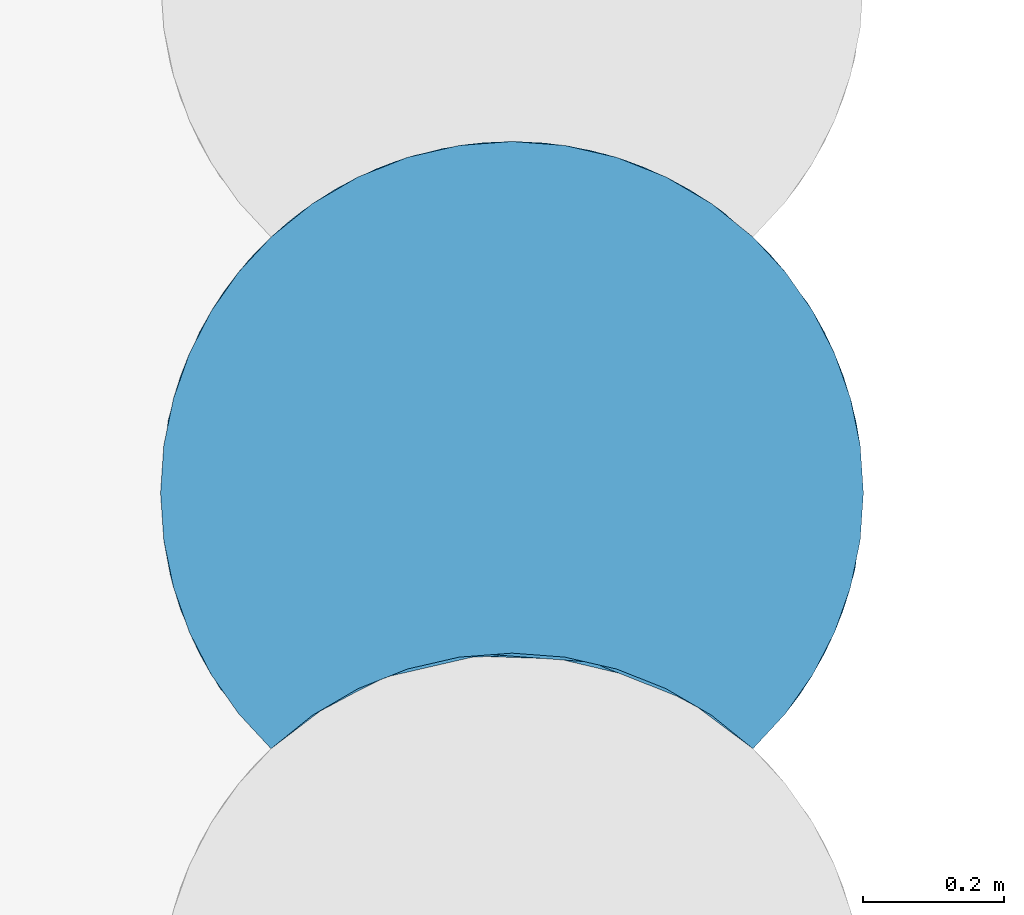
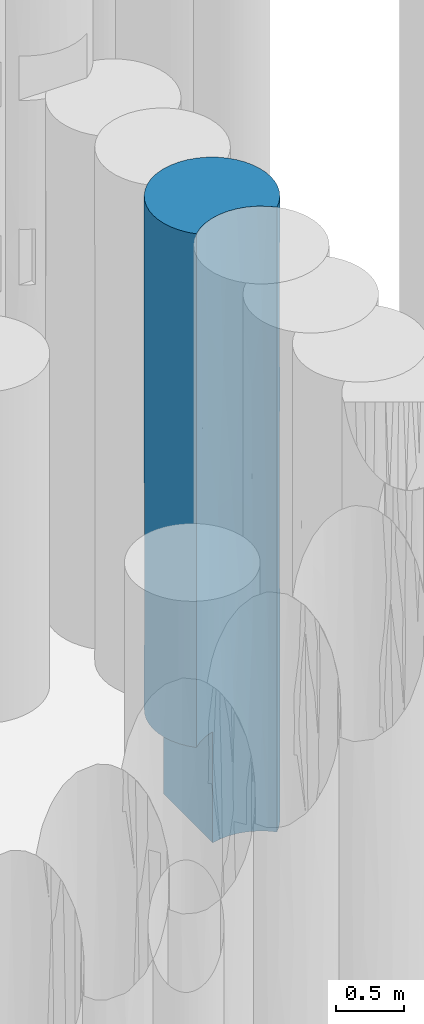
# One storey, part 65 of 104: 1 pile.
"""IFC2X3 building model written with IfcOpenShell, lengths in millimetres."""

from ifc_helpers import new_model, entity, si_unit, converted_unit, derived_unit, direction, frame, origin, place, context, subcontext, project, spatial, faceted_brep, source, transform, mapped, material, element, save


model = new_model("IFC2X3")

# Units and contexts
model_context = context("Model", 3, precision=0.01, world=origin(), true_north=direction((6.12303176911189e-17, 1.0)))
body_context = subcontext(model_context, "Body", "Model", "MODEL_VIEW")
ifc_project = project(units=[si_unit("LENGTHUNIT", "METRE", prefix="MILLI"), si_unit("AREAUNIT", "SQUARE_METRE", prefix="MILLI"), si_unit("VOLUMEUNIT", "CUBIC_METRE"), converted_unit("PLANEANGLEUNIT", "DEGREE", entity("IfcRatioMeasure", 0.0174532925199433), si_unit("PLANEANGLEUNIT", "RADIAN"), dimensions=[0, 0, 0, 0, 0, 0, 0]), si_unit("MASSUNIT", "GRAM", prefix="KILO"), derived_unit("MASSDENSITYUNIT", [(si_unit("MASSUNIT", "GRAM", prefix="KILO"), 1), (si_unit("LENGTHUNIT", "METRE"), -3)]), derived_unit("MOMENTOFINERTIAUNIT", [(si_unit("LENGTHUNIT", "METRE"), 4)]), si_unit("TIMEUNIT", "SECOND"), si_unit("FREQUENCYUNIT", "HERTZ"), si_unit("THERMODYNAMICTEMPERATUREUNIT", "DEGREE_CELSIUS"), derived_unit("THERMALTRANSMITTANCEUNIT", [(si_unit("MASSUNIT", "GRAM", prefix="KILO"), 1), (si_unit("THERMODYNAMICTEMPERATUREUNIT", "KELVIN"), -1), (si_unit("TIMEUNIT", "SECOND"), -3)]), derived_unit("VOLUMETRICFLOWRATEUNIT", [(si_unit("LENGTHUNIT", "METRE"), 3), (si_unit("TIMEUNIT", "SECOND"), -1)]), si_unit("ELECTRICCURRENTUNIT", "AMPERE"), si_unit("ELECTRICVOLTAGEUNIT", "VOLT"), si_unit("POWERUNIT", "WATT"), si_unit("FORCEUNIT", "NEWTON", prefix="KILO"), si_unit("ILLUMINANCEUNIT", "LUX"), si_unit("LUMINOUSFLUXUNIT", "LUMEN"), si_unit("LUMINOUSINTENSITYUNIT", "CANDELA"), derived_unit("USERDEFINED", [(si_unit("MASSUNIT", "GRAM", prefix="KILO"), -1), (si_unit("LENGTHUNIT", "METRE"), -2), (si_unit("TIMEUNIT", "SECOND"), 3), (si_unit("LUMINOUSFLUXUNIT", "LUMEN"), 1)]), derived_unit("LINEARVELOCITYUNIT", [(si_unit("LENGTHUNIT", "METRE"), 1), (si_unit("TIMEUNIT", "SECOND"), -1)]), si_unit("PRESSUREUNIT", "PASCAL"), derived_unit("USERDEFINED", [(si_unit("LENGTHUNIT", "METRE"), -2), (si_unit("MASSUNIT", "GRAM", prefix="KILO"), 1), (si_unit("TIMEUNIT", "SECOND"), -2)]), derived_unit("LINEARFORCEUNIT", [(si_unit("MASSUNIT", "GRAM", prefix="KILO"), 1), (si_unit("LENGTHUNIT", "METRE"), 1), (si_unit("TIMEUNIT", "SECOND"), -2), (si_unit("LENGTHUNIT", "METRE"), -1)]), derived_unit("PLANARFORCEUNIT", [(si_unit("MASSUNIT", "GRAM", prefix="KILO"), 1), (si_unit("LENGTHUNIT", "METRE"), 1), (si_unit("TIMEUNIT", "SECOND"), -2), (si_unit("LENGTHUNIT", "METRE"), -2)])], contexts=[model_context])

# Site, building, storey
site_placement = place(None, origin())
site = spatial("IfcSite", under=ifc_project, at=site_placement, Name="Theater aan de Parade", CompositionType="ELEMENT")
building_placement = place(site_placement, origin())
building = spatial("IfcBuilding", under=site, at=building_placement, Name="Theater aan de Parade", CompositionType="ELEMENT")
storey_placement = place(building_placement, frame((0.0, 0.0, -5520.0)))
storey = spatial("IfcBuildingStorey", under=building, at=storey_placement, Name="-2 kelder", CompositionType="ELEMENT", Elevation=-5520.0)

# Pile
ifc_material = material(Name="00_PBT_MAT_grout")
shared_shape = source(origin(), body_context, "Body", "Brep", [
    faceted_brep([(583.871954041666, 130.779363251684, 0.0), (510.487049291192, 137.516202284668, 0.0), (436.90935192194, 133.39334777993, 0.0), (364.737142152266, 118.500514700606, 0.0), (364.737142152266, 846.500514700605, 0.0), (436.915459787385, 861.394144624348, 0.0), (510.496193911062, 865.516039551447, 0.0), (583.883200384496, 858.777486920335, 0.0), (655.481623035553, 841.325228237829, 0.0), (723.736316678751, 813.538746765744, 0.0), (787.164833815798, 776.021910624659, 0.0), (844.39595402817, 729.577619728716, 0.0), (890.539747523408, 679.796155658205, 0.0), (929.517904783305, 624.211243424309, 0.0), (960.607316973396, 563.857580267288, 0.0), (983.235228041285, 499.844864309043, 0.0), (996.982552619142, 433.355455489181, 0.0), (1001.59527223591, 365.595272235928, 0.0), (996.982362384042, 297.833698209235, 0.0), (983.235035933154, 231.344990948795, 0.0), (960.607207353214, 167.332710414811, 0.0), (929.517907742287, 106.979305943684, 0.0), (890.53945920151, 51.3940319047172, 0.0), (844.383836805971, 1.59527223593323, 0.0), (787.156098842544, 48.0279881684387, 0.0), (723.725648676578, 85.5440370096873, 0.0), (655.469938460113, 113.329007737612, 0.0), (946.088153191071, 594.562690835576, 1043.53969335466), (249.344536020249, 797.30068809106, 4463.17014318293), (158.80670766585, 729.595272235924, 5620.0), (217.483259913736, 777.032223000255, 5620.0), (985.213296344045, 492.534654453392, 1004.42933272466), (973.009053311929, 532.235744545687, 1936.08515935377), (463.858643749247, 864.169185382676, 4259.34974449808), (501.595272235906, 865.595272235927, 5620.0), (613.944699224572, 852.809399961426, 4275.67466699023), (204.660366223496, 767.875847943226, 1000.0), (181.161378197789, 749.420909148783, 2396.54211556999), (250.423769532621, 797.929490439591, 1914.18443114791), (868.306365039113, 705.481980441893, 1387.65374803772), (756.142699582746, 795.950482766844, 1012.06034171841), (959.032846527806, 567.463708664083, 2919.59475431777), (868.306364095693, 705.481981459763, 2809.9973883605), (925.761095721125, 630.327881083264, 3732.47138636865), (785.707284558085, 777.032223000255, 5620.0), (753.846007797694, 797.300688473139, 4800.53334556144), (720.545942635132, 815.10678925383, 5620.0), (890.546518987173, 679.787773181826, 5620.0), (946.091900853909, 594.55541537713, 4676.41921773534), (868.311762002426, 705.476157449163, 4258.14392244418), (973.010577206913, 532.231433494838, 3903.08947601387), (663.932568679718, 838.508162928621, 934.425623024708), (547.314016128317, 863.500681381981, 1387.25893523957), (91.3677288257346, 651.45076479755, 2236.39003135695), (158.806707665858, 729.595272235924, 1000.0), (112.658831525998, 679.806101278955, 1000.0), (539.331899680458, 864.169185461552, 3038.70326995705), (194.690734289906, 760.322525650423, 3534.1261971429), (125.271006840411, 694.806522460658, 3130.11719573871), (1001.59527223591, 365.595272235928, 5620.0), (991.238840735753, 466.833485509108, 4676.4159354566), (996.982276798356, 433.357471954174, 5620.0), (308.346723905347, 826.740584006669, 1000.0), (254.743436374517, 800.410372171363, 1000.0), (76.2812336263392, 628.479217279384, 4615.57643001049), (30.1799660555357, 532.23143007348, 4401.73359973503), (42.5806424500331, 563.851595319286, 5620.0), (1001.59527223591, 365.595272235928, 3123.07544949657), (1001.59527223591, 365.595272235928, 4058.46227525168), (983.235934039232, 499.842331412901, 5620.0), (660.984834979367, 839.50978698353, 3485.87169634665), (726.994212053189, 811.90829907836, 2859.16529902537), (632.292271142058, 848.211366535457, 2619.96955620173), (281.1516122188, 814.376502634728, 3301.86801593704), (403.358032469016, 855.849741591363, 3206.8373733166), (336.246493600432, 837.463666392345, 2200.06745595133), (57.0986427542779, 594.55541370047, 3310.0024483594), (134.878781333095, 705.476156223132, 4148.62385475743), (960.609902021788, 563.851595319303, 5620.0), (929.522999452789, 624.202813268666, 5620.0), (457.377813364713, 863.636250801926, 2181.17722905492), (350.648106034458, 842.265968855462, 4149.82848767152), (844.383836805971, 729.595272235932, 5620.0), (803.352544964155, 764.27126644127, 3201.16233092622), (650.395275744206, 842.940596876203, 5620.0), (576.853265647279, 859.899059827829, 5620.0), (922.600197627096, 635.326347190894, 2115.24967392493), (364.737142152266, 846.500514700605, 1000.0), (352.795268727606, 842.940596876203, 5620.0), (426.337278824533, 859.89905982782, 5620.0), (690.121589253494, 828.691188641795, 1836.52803985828), (991.55770847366, 465.278826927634, 2715.80955034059), (1001.59527223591, 365.595272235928, 1561.53772474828), (753.84600738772, 797.300688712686, 3910.601920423), (73.6753405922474, 624.215712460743, 1000.0), (1.5952722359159, 365.595272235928, 2561.53770802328), (30.1797428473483, 532.230798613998, 2218.26464836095), (6.20628386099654, 433.342967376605, 1000.0), (794.694441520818, 770.679062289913, 2051.18962286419), (1.5952722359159, 365.595272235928, 1000.0), (6.20826767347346, 433.357471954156, 5620.0), (1.5952722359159, 365.595272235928, 4123.07541604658), (1.5952722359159, 365.595272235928, 5620.0), (42.582206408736, 563.855216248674, 1000.0), (19.953191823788, 499.837241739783, 1000.0), (112.644025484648, 679.787773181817, 5620.0), (19.9546104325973, 499.842331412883, 5620.0), (282.64460183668, 815.106789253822, 5620.0), (12.4025620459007, 468.990109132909, 3331.95278221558), (462.729871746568, 864.082464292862, 891.375751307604), (554.377817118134, 862.801469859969, 2217.52824525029), (73.6675450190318, 624.202813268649, 5620.0), (112.651806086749, 51.3931396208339, 1000.0), (158.80670766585, 1.59527223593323, 2561.53570825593), (57.0976622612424, 136.637034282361, 2043.51622610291), (57.0986428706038, 136.635130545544, 4223.52863500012), (30.1762797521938, 198.969543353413, 2936.01182275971), (86.0518049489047, 87.5240101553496, 3074.84642140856), (158.806707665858, 1.59527223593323, 4058.46169591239), (158.80670766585, 1.59527223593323, 4123.07141651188), (42.5776896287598, 167.345785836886, 1000.0), (73.6691815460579, 106.985023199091, 1000.0), (19.9506701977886, 231.36235031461, 1000.0), (17.9763530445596, 238.659300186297, 2004.37665206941), (6.20537477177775, 297.854224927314, 1000.0), (73.6675450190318, 106.9877312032, 5620.0), (112.644025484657, 51.4027712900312, 5620.0), (6.20826767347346, 297.833072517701, 5620.0), (15.2946867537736, 249.355259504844, 4493.1728295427), (42.5806424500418, 167.338949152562, 5620.0), (158.806707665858, 1.59527223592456, 5620.0), (158.80670766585, 1.59527223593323, 1000.0), (158.806707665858, 1.59527223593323, 2496.92339182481), (19.9546104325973, 231.348213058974, 5620.0), (576.847851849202, 131.899884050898, 5620.0), (650.386060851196, 114.94346928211, 5620.0), (720.534584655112, 87.1123213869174, 5620.0), (785.695330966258, 49.0404771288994, 5620.0), (844.383836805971, 1.59527223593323, 5620.0), (890.539459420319, 51.3940321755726, 5620.0), (929.517907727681, 106.979305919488, 5620.0), (960.607207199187, 167.33271005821, 5620.0), (983.235035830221, 231.344990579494, 5620.0), (996.982362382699, 297.833698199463, 5620.0), (217.495213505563, 49.0404771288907, 5620.0), (282.655959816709, 87.1123213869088, 5620.0), (352.804483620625, 114.94346928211, 5620.0), (426.342692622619, 131.899884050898, 5620.0), (501.595272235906, 137.595272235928, 5620.0), (547.303785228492, 135.501620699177, 1387.23923645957), (663.924183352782, 110.511041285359, 934.401466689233), (844.383836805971, 1.59527223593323, 1561.53729567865), (756.13299546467, 67.9562224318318, 1012.04504322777), (234.87258907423, 60.5125339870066, 2140.44524555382), (326.888569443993, 106.07960281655, 2273.76174989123), (230.480195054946, 57.7102742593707, 3093.76199749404), (317.204382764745, 102.35327365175, 3595.66345784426), (417.235772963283, 130.427368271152, 3000.25703825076), (220.920469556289, 51.3846572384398, 1000.0), (290.148891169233, 90.6851396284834, 1000.0), (690.110387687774, 100.695748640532, 1836.49016171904), (775.575678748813, 55.8472738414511, 1951.92214500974), (613.937328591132, 124.811099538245, 4689.57401529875), (317.204382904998, 102.353273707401, 4637.58130436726), (240.363286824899, 63.9259535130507, 4116.62238173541), (753.834282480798, 69.3075395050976, 4689.57401410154), (685.98616065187, 102.353274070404, 3979.39544583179), (844.383836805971, 1.59527223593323, 3123.07513499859), (844.383836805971, 1.59527223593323, 4058.46216068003), (771.745206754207, 58.3315469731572, 3590.76885698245), (692.005096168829, 99.9199405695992, 2908.69057396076), (592.819727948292, 129.202939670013, 3801.56044210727), (539.32916939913, 136.169392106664, 3038.71020674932), (438.382663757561, 133.583342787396, 1893.88353969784), (463.861374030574, 136.169392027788, 4259.36317315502), (364.737142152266, 118.500514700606, 1000.0), (781.045655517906, 52.2125454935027, 2773.42719735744), (598.023677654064, 128.208727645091, 2235.58557925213), (462.725547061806, 136.082127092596, 891.335236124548), (844.383836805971, 1.59527223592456, 2342.30621533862), (909.34885610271, 76.2217854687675, 2700.74005300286), (946.088091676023, 136.627734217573, 1935.9672496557), (988.22203301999, 250.728411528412, 3590.76885291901), (973.008888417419, 198.95433345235, 4676.46966098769), (946.088091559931, 136.627733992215, 3903.21291059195), (990.307935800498, 259.954690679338, 2342.3065587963), (973.008888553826, 198.954333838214, 1043.48167383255), (925.554743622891, 100.532323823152, 1004.36077692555), (910.973193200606, 78.5243440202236, 4676.47304371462), (961.351261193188, 169.064280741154, 2919.5900805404)], [[[0, 1, 2, 3, 4, 5, 6, 7, 8, 9, 10, 11, 12, 13, 14, 15, 16, 17, 18, 19, 20, 21, 22, 23, 24, 25, 26]], [[27, 14, 13]], [[28, 29, 30]], [[15, 31, 16]], [[32, 31, 27]], [[33, 34, 35]], [[36, 37, 38]], [[27, 12, 39]], [[31, 14, 27]], [[10, 9, 40]], [[41, 42, 43]], [[44, 45, 46]], [[47, 48, 49]], [[43, 48, 50]], [[51, 40, 9]], [[6, 52, 7]], [[53, 54, 55]], [[35, 56, 33]], [[51, 7, 52]], [[51, 9, 8]], [[57, 37, 58]], [[59, 60, 61]], [[38, 62, 63]], [[64, 65, 66]], [[15, 14, 31]], [[67, 50, 68]], [[43, 49, 48]], [[69, 60, 48]], [[61, 60, 69]], [[37, 53, 58]], [[70, 71, 72]], [[73, 74, 75]], [[58, 76, 77]], [[69, 48, 78]], [[79, 78, 48]], [[75, 74, 80]], [[28, 81, 73]], [[47, 49, 82]], [[82, 49, 45]], [[50, 48, 60]], [[83, 49, 42]], [[35, 84, 45]], [[47, 79, 48]], [[35, 85, 84]], [[86, 42, 41]], [[75, 80, 87]], [[11, 10, 40]], [[4, 87, 5]], [[12, 27, 13]], [[81, 88, 89]], [[51, 90, 40]], [[38, 75, 62]], [[91, 92, 32]], [[49, 93, 45]], [[54, 37, 36]], [[55, 94, 53]], [[12, 11, 39]], [[95, 96, 97]], [[98, 71, 83]], [[97, 99, 95]], [[100, 101, 102]], [[53, 96, 76]], [[103, 104, 96]], [[32, 41, 91]], [[96, 94, 103]], [[77, 64, 105]], [[39, 40, 98]], [[28, 73, 57]], [[100, 106, 65]], [[89, 34, 33]], [[34, 85, 35]], [[62, 75, 87]], [[59, 68, 60]], [[89, 33, 81]], [[30, 107, 28]], [[108, 96, 95]], [[97, 96, 104]], [[29, 28, 77]], [[74, 81, 33]], [[76, 65, 64]], [[75, 38, 73]], [[6, 5, 109]], [[100, 65, 101]], [[29, 77, 105]], [[108, 101, 65]], [[70, 93, 71]], [[45, 84, 46]], [[106, 66, 65]], [[72, 110, 56]], [[111, 64, 66]], [[108, 65, 76]], [[81, 107, 88]], [[109, 5, 87]], [[86, 27, 39]], [[17, 16, 92]], [[68, 50, 60]], [[98, 40, 90]], [[11, 40, 39]], [[45, 44, 82]], [[35, 45, 93]], [[71, 98, 90]], [[42, 39, 98]], [[41, 43, 50]], [[42, 49, 43]], [[91, 50, 67]], [[41, 32, 86]], [[27, 86, 32]], [[39, 42, 86]], [[53, 37, 54]], [[94, 96, 53]], [[96, 108, 76]], [[101, 108, 95]], [[33, 56, 74]], [[80, 74, 56]], [[72, 71, 90]], [[83, 71, 93]], [[50, 91, 41]], [[92, 91, 67]], [[110, 80, 56]], [[80, 52, 109]], [[32, 92, 31]], [[16, 31, 92]], [[73, 81, 74]], [[81, 28, 107]], [[7, 51, 8]], [[52, 90, 51]], [[110, 90, 52]], [[70, 56, 35]], [[56, 70, 72]], [[93, 70, 35]], [[90, 110, 72]], [[80, 110, 52]], [[76, 58, 53]], [[57, 58, 77]], [[28, 57, 77]], [[37, 57, 73]], [[49, 83, 93]], [[98, 83, 42]], [[36, 38, 63]], [[73, 38, 37]], [[105, 64, 111]], [[76, 64, 77]], [[80, 109, 87]], [[6, 109, 52]], [[112, 113, 114]], [[115, 116, 117]], [[117, 113, 118, 119]], [[114, 120, 121]], [[122, 120, 123]], [[124, 123, 95]], [[116, 101, 95]], [[125, 115, 126]], [[127, 102, 101]], [[120, 114, 123]], [[127, 101, 128]], [[116, 95, 123]], [[115, 129, 128]], [[99, 124, 95]], [[112, 114, 121]], [[119, 130, 126]], [[115, 125, 129]], [[128, 116, 115]], [[112, 131, 132, 113]], [[124, 122, 123]], [[129, 133, 128]], [[114, 116, 123]], [[126, 115, 119]], [[117, 116, 114]], [[117, 114, 113]], [[117, 119, 115]], [[127, 128, 133]], [[116, 128, 101]], [[134, 135, 136, 137, 138, 139, 140, 141, 142, 143, 59, 61, 69, 78, 79, 47, 82, 44, 46, 84, 85, 34, 89, 88, 107, 30, 29, 105, 111, 66, 106, 100, 102, 127, 133, 129, 125, 126, 130, 144, 145, 146, 147, 148]], [[149, 0, 150]], [[151, 152, 23]], [[153, 154, 155]], [[156, 154, 157]], [[153, 158, 159]], [[152, 160, 150]], [[161, 160, 152]], [[135, 134, 162]], [[150, 26, 25]], [[156, 163, 164]], [[135, 162, 165, 136]], [[131, 153, 132]], [[166, 165, 162]], [[167, 168, 169]], [[170, 171, 172]], [[157, 154, 173]], [[162, 174, 171]], [[144, 163, 145]], [[154, 175, 173]], [[147, 146, 163]], [[175, 3, 2]], [[165, 168, 138]], [[1, 0, 149]], [[132, 153, 155]], [[169, 176, 167]], [[150, 25, 152]], [[174, 147, 163]], [[149, 160, 177]], [[164, 163, 144]], [[134, 148, 162]], [[155, 164, 118]], [[170, 169, 166]], [[165, 137, 136]], [[147, 174, 148]], [[175, 154, 159]], [[163, 156, 174]], [[144, 130, 119, 118]], [[163, 146, 145]], [[172, 174, 157]], [[178, 2, 1]], [[175, 2, 178]], [[23, 152, 24]], [[24, 152, 25]], [[166, 162, 171]], [[174, 162, 148]], [[137, 165, 138]], [[168, 165, 169]], [[176, 161, 179]], [[166, 169, 165]], [[179, 161, 151]], [[177, 160, 170]], [[176, 169, 170]], [[151, 161, 152]], [[160, 161, 170]], [[166, 171, 170]], [[172, 171, 174]], [[156, 164, 155]], [[118, 164, 144]], [[156, 155, 154]], [[155, 118, 113, 132]], [[154, 153, 159]], [[158, 153, 131]], [[26, 150, 0]], [[150, 160, 149]], [[156, 157, 174]], [[173, 177, 172]], [[157, 173, 172]], [[178, 149, 173]], [[167, 176, 179]], [[161, 176, 170]], [[175, 178, 173]], [[149, 178, 1]], [[149, 177, 173]], [[172, 177, 170]], [[180, 151, 181]], [[182, 183, 184]], [[185, 186, 92]], [[186, 20, 19]], [[186, 187, 20]], [[21, 20, 187]], [[21, 187, 22]], [[188, 141, 140]], [[167, 184, 168]], [[183, 188, 184]], [[143, 142, 183]], [[143, 183, 68]], [[188, 183, 141]], [[23, 22, 151]], [[18, 17, 92]], [[59, 143, 68]], [[140, 139, 188]], [[186, 18, 92]], [[92, 67, 185]], [[185, 67, 182]], [[67, 68, 182]], [[181, 189, 180]], [[186, 181, 187]], [[138, 168, 188]], [[18, 186, 19]], [[142, 141, 183]], [[138, 188, 139]], [[168, 184, 188]], [[183, 182, 68]], [[189, 182, 184]], [[189, 185, 182]], [[186, 185, 181]], [[181, 151, 187]], [[22, 187, 151]], [[180, 184, 167]], [[185, 189, 181]], [[184, 180, 189]], [[180, 167, 179, 151]], [[55, 54, 36, 63, 62, 87, 175, 159, 158, 131, 112, 121, 120, 122, 124, 99, 97, 104, 103, 94]], [[175, 87, 4, 3]]]),
])
pile_placement = place(storey_placement, frame((41760.2628578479, 41759.2179922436, -3840.0)))
element("IfcPile", 1, at=pile_placement, inside=storey, material=ifc_material, Name="17_PBT_SFO_grondkering_rond:Ø1000 (grondkering)", ObjectType="17_PBT_SFO_grondkering_rond:Ø1000 (grondkering)", PredefinedType="NOTDEFINED", context=body_context, shape_type="MappedRepresentation", body=[
    mapped(shared_shape, transform((0.0, 0.0, 0.0), scale=1.0)),
])

save(model, "model.ifc")
